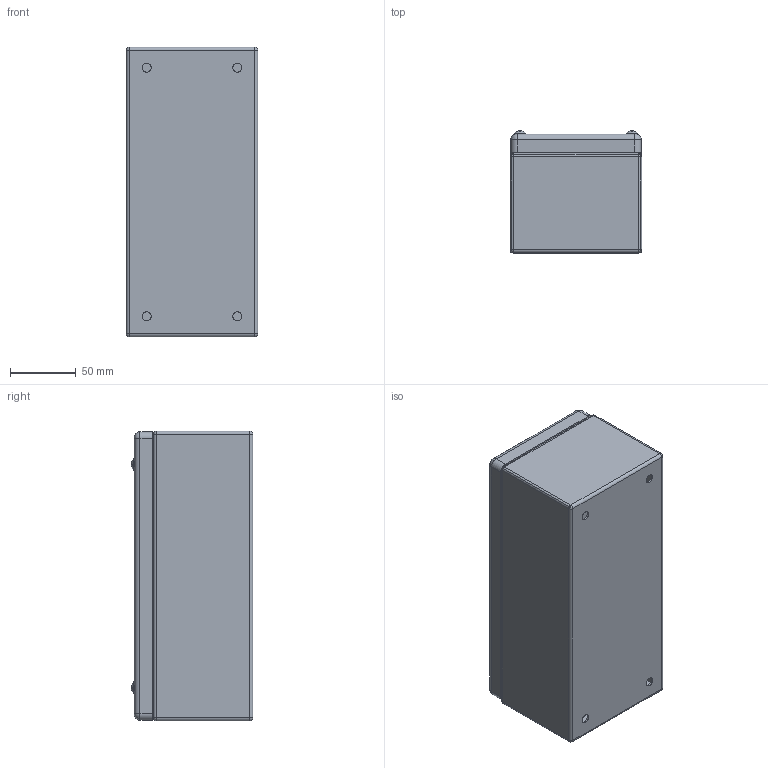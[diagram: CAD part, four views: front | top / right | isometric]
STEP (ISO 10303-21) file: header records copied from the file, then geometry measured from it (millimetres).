
FILE_DESCRIPTION (( 'STEP AP214' ), '1' );
FILE_NAME ('SHX1-229F.STEP', '2022-12-23T10:21:38', ( '' ), ( '' ), 'SwSTEP 2.0', 'SolidWorks 2022', '' );
FILE_SCHEMA (( 'AUTOMOTIVE_DESIGN' ));
Length unit declared in the file: millimetre
Products named in the file (3): AR_SHX_Coperchio_SHX1-229F; AR_SHX_Involucro_100X220X090; SHX1-229F
Assembly tree (2 placements, depth 2):
  SHX1-229F
    AR_SHX_Involucro_100X220X090
    AR_SHX_Coperchio_SHX1-229F
Bounding box: 100 x 92.42 x 220 mm (x, y, z)
Volume: 149661.6 mm3; surface area: 226953.9 mm2
Topology: 2 solids, 2 shells, 406 faces, 1014 edges, 624 vertices
Faces by surface type: plane 220, cylinder 98, cone 44, torus 28, sphere 16
Entity records: 12446 total; most frequent: CARTESIAN_POINT 2353, DIRECTION 2100, ORIENTED_EDGE 2012, EDGE_CURVE 1006, AXIS2_PLACEMENT_3D 755, VERTEX_POINT 624, VECTOR 590, LINE 590
